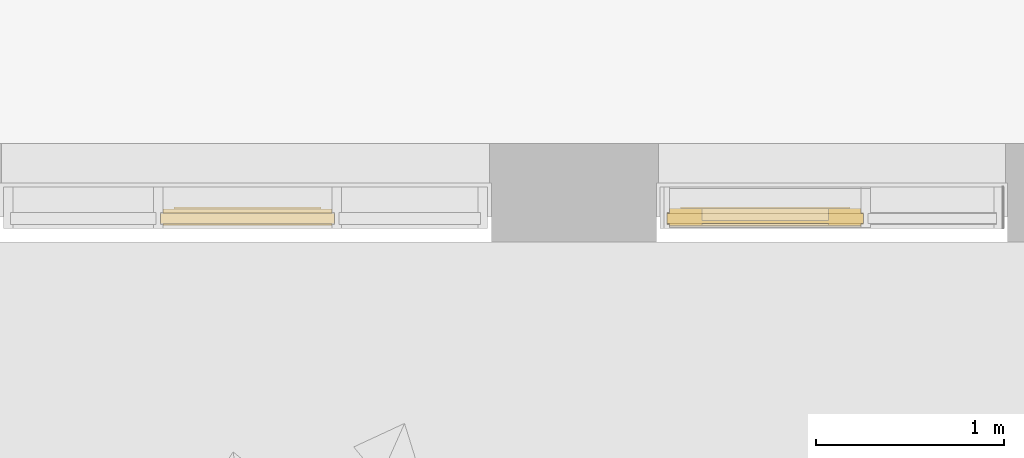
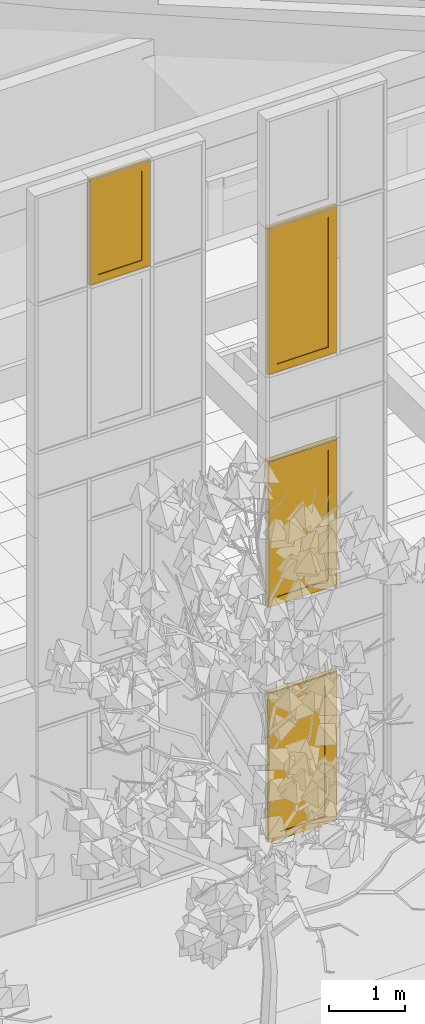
# One storey, part 150 of 246: 3 windows, 1 door, 2 elements without a shape of their own.
"""IFC2X3 building model written with IfcOpenShell, lengths in millimetres."""

from ifc_helpers import new_model, entity, si_unit, converted_unit, derived_unit, money_unit, direction, frame, origin_with_axes, place, context, subcontext, project, spatial, open_shell, faceted_brep, surface_model, source, transform, mapped, material, material_list, type_object, element, aggregate, save


model = new_model("IFC2X3")

# Units and contexts
model_context = context("Model", 3, precision=0.01, world=origin_with_axes(), true_north=direction((0.0, 1.0)))
body_context = subcontext(model_context, "Body", "Model", "MODEL_VIEW")
ifc_project = project(units=[si_unit("LENGTHUNIT", "METRE", prefix="MILLI"), si_unit("AREAUNIT", "SQUARE_METRE"), si_unit("VOLUMEUNIT", "CUBIC_METRE"), converted_unit("PLANEANGLEUNIT", "DEGREE", entity("IfcPlaneAngleMeasure", 0.0174532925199), si_unit("PLANEANGLEUNIT", "RADIAN"), dimensions=[0, 0, 0, 0, 0, 0, 0]), si_unit("SOLIDANGLEUNIT", "STERADIAN"), money_unit("EUR"), converted_unit("TIMEUNIT", "Year", entity("IfcTimeMeasure", 31556926.0), si_unit("TIMEUNIT", "SECOND"), dimensions=[0, 0, 1, 0, 0, 0, 0]), si_unit("MASSUNIT", "GRAM", prefix="KILO"), si_unit("THERMODYNAMICTEMPERATUREUNIT", "DEGREE_CELSIUS"), si_unit("LUMINOUSINTENSITYUNIT", "LUMEN"), si_unit("ENERGYUNIT", "JOULE", prefix="MEGA"), derived_unit("THERMALCONDUCTANCEUNIT", [(si_unit("POWERUNIT", "WATT"), 1), (si_unit("LENGTHUNIT", "METRE"), -1), (si_unit("THERMODYNAMICTEMPERATUREUNIT", "KELVIN"), -1)]), derived_unit("SPECIFICHEATCAPACITYUNIT", [(si_unit("ENERGYUNIT", "JOULE"), 1), (si_unit("MASSUNIT", "GRAM", prefix="KILO"), -1), (si_unit("THERMODYNAMICTEMPERATUREUNIT", "KELVIN"), -1)]), derived_unit("MASSDENSITYUNIT", [(si_unit("MASSUNIT", "GRAM", prefix="KILO"), 1), (si_unit("VOLUMEUNIT", "CUBIC_METRE"), -1)])], contexts=[model_context])

# Site, building, storey
site_placement = place(None, origin_with_axes())
site = spatial("IfcSite", under=ifc_project, at=site_placement, Name="L.Koidula tn 11b", CompositionType="ELEMENT")
building_placement = place(site_placement, origin_with_axes())
building = spatial("IfcBuilding", under=site, at=building_placement, Name="Rakvere Riigigümnaasium", CompositionType="ELEMENT")
storey_placement = place(building_placement, origin_with_axes())
storey = spatial("IfcBuildingStorey", under=building, at=storey_placement, Name="1.korrus 0,00", CompositionType="ELEMENT", Elevation=0.0)

# Curtain wall, door, windows
curtain_wall_type = type_object("IfcCurtainWallType", Name="Curtain Wall Type", PredefinedType="NOTDEFINED")
curtain_wall_1_placement = place(storey_placement, frame((81464.0000846, 5111.45334637, -8.09717250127e-06), z_axis=(0.0, 0.0, 1.0), x_axis=(1.0, 0.0, 0.0)))
curtain_wall_1 = element("IfcCurtainWall", 1, at=curtain_wall_1_placement, inside=storey, type_object=curtain_wall_type, Name="KLF-05-2A")
ifc_material_1 = material(Name="Alumiiniumprofiil (RAL 7021)")
ifc_material_2 = material(Name="Klaaspakett 3x ribikardinatega")
ifc_material_list = material_list([ifc_material_1, ifc_material_2])
door_style = type_object("IfcDoorStyle", Name="1046 x 2388 x 54", ConstructionType="NOTDEFINED", OperationType="NOTDEFINED", ParameterTakesPrecedence=False, Sizeable=False)
shared_shape_1 = source(origin_with_axes(), body_context, "Body", "SurfaceModel", [
    surface_model("IfcShellBasedSurfaceModel", [(1070.0, 0.0, -53.0), (1017.0, 0.0, -53.0), (1017.0, 2322.0, -53.0), (1070.0, 2375.0, -53.0)], [open_shell([[[0, 1, 2, 3]]])]),
    surface_model("IfcShellBasedSurfaceModel", [(50.0, 2375.0, -53.0), (1070.0, 2375.0, -53.0), (1017.0, 2322.0, -53.0), (103.0, 2322.0, -53.0)], [open_shell([[[0, 1, 2, 3]]])]),
    surface_model("IfcShellBasedSurfaceModel", [(50.0, 0.0, -53.0), (50.0, 2375.0, -53.0), (103.0, 2322.0, -53.0), (103.0, 0.0, -53.0)], [open_shell([[[0, 1, 2, 3]]])]),
    faceted_brep([(1070.0, 0.0, -53.0), (1070.0, 2375.0, -53.0), (1070.0, 2375.0, 37.0), (1070.0, 0.0, 37.0), (1017.0, 0.0, -53.0), (1017.0, 2322.0, -53.0), (1017.0, 2322.0, 37.0), (1017.0, 0.0, 37.0)], [[[0, 1, 2, 3]], [[0, 4, 5, 1]], [[1, 5, 6, 2]], [[3, 2, 6, 7]], [[4, 0, 3, 7]], [[5, 4, 7, 6]]]),
    faceted_brep([(50.0, 2375.0, -53.0), (103.0, 2322.0, -53.0), (103.0, 2322.0, 37.0), (50.0, 2375.0, 37.0), (1070.0, 2375.0, -53.0), (1017.0, 2322.0, -53.0), (1017.0, 2322.0, 37.0), (1070.0, 2375.0, 37.0)], [[[0, 1, 2, 3]], [[0, 4, 5, 1]], [[1, 5, 6, 2]], [[3, 2, 6, 7]], [[4, 0, 3, 7]], [[5, 4, 7, 6]]]),
    faceted_brep([(50.0, 0.0, -53.0), (103.0, 0.0, -53.0), (103.0, 0.0, 37.0), (50.0, 0.0, 37.0), (50.0, 2375.0, -53.0), (103.0, 2322.0, -53.0), (103.0, 2322.0, 37.0), (50.0, 2375.0, 37.0)], [[[0, 1, 2, 3]], [[0, 4, 5, 1]], [[1, 5, 6, 2]], [[3, 2, 6, 7]], [[4, 0, 3, 7]], [[5, 4, 7, 6]]]),
    faceted_brep([(1083.0, 0.0, -27.0), (1083.0, 2388.0, -27.0), (1083.0, 2388.0, 27.0), (1083.0, 0.0, 27.0), (1070.0, 0.0, -27.0), (1070.0, 2375.0, -27.0), (1070.0, 2375.0, 27.0), (1070.0, 0.0, 27.0)], [[[0, 1, 2, 3]], [[0, 4, 5, 1]], [[1, 5, 6, 2]], [[3, 2, 6, 7]], [[4, 0, 3, 7]], [[5, 4, 7, 6]]]),
    faceted_brep([(1083.0, 2388.0, -27.0), (37.0, 2388.0, -27.0), (37.0, 2388.0, 27.0), (1083.0, 2388.0, 27.0), (1070.0, 2375.0, -27.0), (50.0, 2375.0, -27.0), (50.0, 2375.0, 27.0), (1070.0, 2375.0, 27.0)], [[[0, 1, 2, 3]], [[0, 4, 5, 1]], [[1, 5, 6, 2]], [[3, 2, 6, 7]], [[4, 0, 3, 7]], [[5, 4, 7, 6]]]),
    faceted_brep([(37.0, 2388.0, -27.0), (37.0, 0.0, -27.0), (37.0, 0.0, 27.0), (37.0, 2388.0, 27.0), (50.0, 2375.0, -27.0), (50.0, 0.0, -27.0), (50.0, 0.0, 27.0), (50.0, 2375.0, 27.0)], [[[0, 1, 2, 3]], [[0, 4, 5, 1]], [[1, 5, 6, 2]], [[3, 2, 6, 7]], [[4, 0, 3, 7]], [[5, 4, 7, 6]]]),
    faceted_brep([(222.0, 119.0, -53.0), (222.0, 2203.0, -53.0), (222.0, 2203.0, 37.0), (222.0, 119.0, 37.0), (103.0, 0.0, -53.0), (103.0, 2322.0, -53.0), (103.0, 2322.0, 37.0), (103.0, 0.0, 37.0)], [[[0, 1, 2, 3]], [[0, 4, 5, 1]], [[1, 5, 6, 2]], [[3, 2, 6, 7]], [[4, 0, 3, 7]], [[5, 4, 7, 6]]]),
    faceted_brep([(1017.0, 0.0, -53.0), (1017.0, 2322.0, -53.0), (1017.0, 2322.0, 37.0), (1017.0, 0.0, 37.0), (898.0, 119.0, -53.0), (898.0, 2203.0, -53.0), (898.0, 2203.0, 37.0), (898.0, 119.0, 37.0)], [[[0, 1, 2, 3]], [[0, 4, 5, 1]], [[1, 5, 6, 2]], [[3, 2, 6, 7]], [[4, 0, 3, 7]], [[5, 4, 7, 6]]]),
    faceted_brep([(1017.0, 0.0, -53.0), (898.0, 119.0, -53.0), (898.0, 119.0, 37.0), (1017.0, 0.0, 37.0), (103.0, 0.0, -53.0), (222.0, 119.0, -53.0), (222.0, 119.0, 37.0), (103.0, 0.0, 37.0)], [[[0, 1, 2, 3]], [[0, 4, 5, 1]], [[1, 5, 6, 2]], [[3, 2, 6, 7]], [[4, 0, 3, 7]], [[5, 4, 7, 6]]]),
    faceted_brep([(103.0, 2322.0, -53.0), (222.0, 2203.0, -53.0), (222.0, 2203.0, 37.0), (103.0, 2322.0, 37.0), (1017.0, 2322.0, -53.0), (898.0, 2203.0, -53.0), (898.0, 2203.0, 37.0), (1017.0, 2322.0, 37.0)], [[[0, 1, 2, 3]], [[0, 4, 5, 1]], [[1, 5, 6, 2]], [[3, 2, 6, 7]], [[4, 0, 3, 7]], [[5, 4, 7, 6]]]),
    faceted_brep([(222.0, 119.0, 11.0), (898.0, 119.0, 11.0), (898.0, 119.0, 27.0), (222.0, 119.0, 27.0), (222.0, 2203.0, 11.0), (898.0, 2203.0, 11.0), (898.0, 2203.0, 27.0), (222.0, 2203.0, 27.0)], [[[0, 1, 2, 3]], [[0, 4, 5, 1]], [[1, 5, 6, 2]], [[3, 2, 6, 7]], [[4, 0, 3, 7]], [[5, 4, 7, 6]]]),
])
door_placement = place(curtain_wall_1_placement, frame((-582.333458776, 0.0, 1200.0), z_axis=(0.0, 0.0, 1.0), x_axis=(-1.0, 0.0, 0.0)))
door = element("IfcDoor", 2, at=door_placement, type_object=door_style, material=ifc_material_list, Name="KLF-05-VU-2", ObjectType="DOOR", context=body_context, shape_type="MappedRepresentation", body=[
    mapped(shared_shape_1, transform((371.666628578, 0.0, -1200.0), x_axis=(-1.0, 0.0, 0.0), y_axis=(0.0, 0.0, 1.0), z_axis=(0.0, 1.0, 0.0))),
])
window_style_1 = type_object("IfcWindowStyle", Name="1046 x 2351 x 65", ConstructionType="NOTDEFINED", OperationType="NOTDEFINED", ParameterTakesPrecedence=False, Sizeable=False)
shared_shape_2 = source(origin_with_axes(), body_context, "Body", "SurfaceModel", [
    surface_model("IfcShellBasedSurfaceModel", [(50.0000055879, 24.9999850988, 43.5), (109.000005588, 83.9999850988, 43.5), (1010.9999851, 83.9999850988, 43.5), (1069.9999851, 24.9999850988, 43.5)], [open_shell([[[0, 1, 2, 3]]])]),
    surface_model("IfcShellBasedSurfaceModel", [(1069.9999851, 24.9999850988, 43.5), (1010.9999851, 83.9999850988, 43.5), (1010.9999851, 2291.0000149, 43.5), (1069.9999851, 2350.0000149, 43.5)], [open_shell([[[0, 1, 2, 3]]])]),
    surface_model("IfcShellBasedSurfaceModel", [(50.0000055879, 2350.0000149, 43.5), (1069.9999851, 2350.0000149, 43.5), (1010.9999851, 2291.0000149, 43.5), (109.000005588, 2291.0000149, 43.5)], [open_shell([[[0, 1, 2, 3]]])]),
    surface_model("IfcShellBasedSurfaceModel", [(50.0000055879, 24.9999850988, 43.5), (50.0000055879, 2350.0000149, 43.5), (109.000005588, 2291.0000149, 43.5), (109.000005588, 83.9999850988, 43.5)], [open_shell([[[0, 1, 2, 3]]])]),
    faceted_brep([(50.0000055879, 24.9999850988, -45.5), (1069.9999851, 24.9999850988, -45.5), (1069.9999851, 24.9999850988, 43.5), (50.0000055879, 24.9999850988, 43.5), (109.000005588, 83.9999850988, -45.5), (1010.9999851, 83.9999850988, -45.5), (1010.9999851, 83.9999850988, 43.5), (109.000005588, 83.9999850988, 43.5)], [[[0, 1, 2, 3]], [[0, 4, 5, 1]], [[1, 5, 6, 2]], [[3, 2, 6, 7]], [[4, 0, 3, 7]], [[5, 4, 7, 6]]]),
    faceted_brep([(1069.9999851, 24.9999850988, -45.5), (1069.9999851, 2350.0000149, -45.5), (1069.9999851, 2350.0000149, 43.5), (1069.9999851, 24.9999850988, 43.5), (1010.9999851, 83.9999850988, -45.5), (1010.9999851, 2291.0000149, -45.5), (1010.9999851, 2291.0000149, 43.5), (1010.9999851, 83.9999850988, 43.5)], [[[0, 1, 2, 3]], [[0, 4, 5, 1]], [[1, 5, 6, 2]], [[3, 2, 6, 7]], [[4, 0, 3, 7]], [[5, 4, 7, 6]]]),
    faceted_brep([(50.0000055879, 2350.0000149, -45.5), (109.000005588, 2291.0000149, -45.5), (109.000005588, 2291.0000149, 43.5), (50.0000055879, 2350.0000149, 43.5), (1069.9999851, 2350.0000149, -45.5), (1010.9999851, 2291.0000149, -45.5), (1010.9999851, 2291.0000149, 43.5), (1069.9999851, 2350.0000149, 43.5)], [[[0, 1, 2, 3]], [[0, 4, 5, 1]], [[1, 5, 6, 2]], [[3, 2, 6, 7]], [[4, 0, 3, 7]], [[5, 4, 7, 6]]]),
    faceted_brep([(50.0000055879, 24.9999850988, -45.5), (109.000005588, 83.9999850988, -45.5), (109.000005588, 83.9999850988, 43.5), (50.0000055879, 24.9999850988, 43.5), (50.0000055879, 2350.0000149, -45.5), (109.000005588, 2291.0000149, -45.5), (109.000005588, 2291.0000149, 43.5), (50.0000055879, 2350.0000149, 43.5)], [[[0, 1, 2, 3]], [[0, 4, 5, 1]], [[1, 5, 6, 2]], [[3, 2, 6, 7]], [[4, 0, 3, 7]], [[5, 4, 7, 6]]]),
    faceted_brep([(36.9999836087, 11.9999985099, -32.5), (1083.00000708, 11.9999985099, -32.5), (1083.00000708, 11.9999985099, 32.5), (36.9999836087, 11.9999985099, 32.5), (50.0000055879, 24.9999850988, -32.5), (1069.9999851, 24.9999850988, -32.5), (1069.9999851, 24.9999850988, 32.5), (50.0000055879, 24.9999850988, 32.5)], [[[0, 1, 2, 3]], [[0, 4, 5, 1]], [[1, 5, 6, 2]], [[3, 2, 6, 7]], [[4, 0, 3, 7]], [[5, 4, 7, 6]]]),
    faceted_brep([(1083.00000708, 11.9999985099, -32.5), (1083.00000708, 2363.00000149, -32.5), (1083.00000708, 2363.00000149, 32.5), (1083.00000708, 11.9999985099, 32.5), (1069.9999851, 24.9999850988, -32.5), (1069.9999851, 2350.0000149, -32.5), (1069.9999851, 2350.0000149, 32.5), (1069.9999851, 24.9999850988, 32.5)], [[[0, 1, 2, 3]], [[0, 4, 5, 1]], [[1, 5, 6, 2]], [[3, 2, 6, 7]], [[4, 0, 3, 7]], [[5, 4, 7, 6]]]),
    faceted_brep([(1083.00000708, 2363.00000149, -32.5), (36.9999836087, 2363.00000149, -32.5), (36.9999836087, 2363.00000149, 32.5), (1083.00000708, 2363.00000149, 32.5), (1069.9999851, 2350.0000149, -32.5), (50.0000055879, 2350.0000149, -32.5), (50.0000055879, 2350.0000149, 32.5), (1069.9999851, 2350.0000149, 32.5)], [[[0, 1, 2, 3]], [[0, 4, 5, 1]], [[1, 5, 6, 2]], [[3, 2, 6, 7]], [[4, 0, 3, 7]], [[5, 4, 7, 6]]]),
    faceted_brep([(36.9999836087, 2363.00000149, -32.5), (36.9999836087, 11.9999985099, -32.5), (36.9999836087, 11.9999985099, 32.5), (36.9999836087, 2363.00000149, 32.5), (50.0000055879, 2350.0000149, -32.5), (50.0000055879, 24.9999850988, -32.5), (50.0000055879, 24.9999850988, 32.5), (50.0000055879, 2350.0000149, 32.5)], [[[0, 1, 2, 3]], [[0, 4, 5, 1]], [[1, 5, 6, 2]], [[3, 2, 6, 7]], [[4, 0, 3, 7]], [[5, 4, 7, 6]]]),
    faceted_brep([(172.000005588, 146.999985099, 43.5), (172.000005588, 146.999985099, -56.5), (172.000005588, 2228.0000149, -56.5), (172.000005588, 2228.0000149, 43.5), (109.000005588, 83.9999850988, 43.5), (109.000005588, 83.9999850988, -56.5), (109.000005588, 2291.0000149, -56.5), (109.000005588, 2291.0000149, 43.5)], [[[0, 1, 2, 3]], [[4, 5, 1, 0]], [[1, 5, 6, 2]], [[3, 2, 6, 7]], [[0, 3, 7, 4]], [[7, 6, 5, 4]]]),
    faceted_brep([(1010.9999851, 83.9999850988, 43.5), (1010.9999851, 83.9999850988, -56.5), (1010.9999851, 2291.0000149, -56.5), (1010.9999851, 2291.0000149, 43.5), (947.999985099, 146.999985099, 43.5), (947.999985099, 146.999985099, -56.5), (947.999985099, 2228.0000149, -56.5), (947.999985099, 2228.0000149, 43.5)], [[[0, 1, 2, 3]], [[4, 5, 1, 0]], [[1, 5, 6, 2]], [[3, 2, 6, 7]], [[0, 3, 7, 4]], [[7, 6, 5, 4]]]),
    faceted_brep([(1010.9999851, 83.9999850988, 43.5), (1010.9999851, 83.9999850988, -56.5), (947.999985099, 146.999985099, -56.5), (947.999985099, 146.999985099, 43.5), (109.000005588, 83.9999850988, 43.5), (109.000005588, 83.9999850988, -56.5), (172.000005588, 146.999985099, -56.5), (172.000005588, 146.999985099, 43.5)], [[[0, 1, 2, 3]], [[4, 5, 1, 0]], [[1, 5, 6, 2]], [[3, 2, 6, 7]], [[0, 3, 7, 4]], [[7, 6, 5, 4]]]),
    faceted_brep([(109.000005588, 2291.0000149, 43.5), (109.000005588, 2291.0000149, -56.5), (172.000005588, 2228.0000149, -56.5), (172.000005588, 2228.0000149, 43.5), (1010.9999851, 2291.0000149, 43.5), (1010.9999851, 2291.0000149, -56.5), (947.999985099, 2228.0000149, -56.5), (947.999985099, 2228.0000149, 43.5)], [[[0, 1, 2, 3]], [[4, 5, 1, 0]], [[1, 5, 6, 2]], [[3, 2, 6, 7]], [[0, 3, 7, 4]], [[7, 6, 5, 4]]]),
    faceted_brep([(172.000005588, 146.999985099, 32.5), (172.000005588, 146.999985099, -32.5), (947.999985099, 146.999985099, -32.5), (947.999985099, 146.999985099, 32.5), (172.000005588, 2228.0000149, 32.5), (172.000005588, 2228.0000149, -32.5), (947.999985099, 2228.0000149, -32.5), (947.999985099, 2228.0000149, 32.5)], [[[0, 1, 2, 3]], [[4, 5, 1, 0]], [[1, 5, 6, 2]], [[3, 2, 6, 7]], [[0, 3, 7, 4]], [[7, 6, 5, 4]]]),
])
window_1_placement = place(curtain_wall_1_placement, frame((-582.333458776, 0.0, 4932.5), z_axis=(0.0, 0.0, 1.0), x_axis=(-1.0, 0.0, 0.0)))
window_1 = element("IfcWindow", 3, at=window_1_placement, type_object=window_style_1, material=ifc_material_list, Name="KLF-05-A-1", ObjectType="WINDOW", context=body_context, shape_type="MappedRepresentation", body=[
    mapped(shared_shape_2, transform((371.666628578, 0.0, -1187.5), x_axis=(-1.0, 0.0, 0.0), y_axis=(0.0, 0.0, 1.0), z_axis=(0.0, 1.0, 0.0))),
])
window_style_2 = type_object("IfcWindowStyle", Name="1046 x 2351 x 54", ConstructionType="NOTDEFINED", OperationType="NOTDEFINED", ParameterTakesPrecedence=False, Sizeable=False)
shared_shape_3 = source(origin_with_axes(), body_context, "Body", "SurfaceModel", [
    surface_model("IfcShellBasedSurfaceModel", [(50.0000055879, 24.9999850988, 38.0), (109.000005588, 83.9999850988, 38.0), (1010.9999851, 83.9999850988, 38.0), (1069.9999851, 24.9999850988, 38.0)], [open_shell([[[0, 1, 2, 3]]])]),
    surface_model("IfcShellBasedSurfaceModel", [(1069.9999851, 24.9999850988, 38.0), (1010.9999851, 83.9999850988, 38.0), (1010.9999851, 2291.0000149, 38.0), (1069.9999851, 2350.0000149, 38.0)], [open_shell([[[0, 1, 2, 3]]])]),
    surface_model("IfcShellBasedSurfaceModel", [(50.0000055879, 2350.0000149, 38.0), (1069.9999851, 2350.0000149, 38.0), (1010.9999851, 2291.0000149, 38.0), (109.000005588, 2291.0000149, 38.0)], [open_shell([[[0, 1, 2, 3]]])]),
    surface_model("IfcShellBasedSurfaceModel", [(50.0000055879, 24.9999850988, 38.0), (50.0000055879, 2350.0000149, 38.0), (109.000005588, 2291.0000149, 38.0), (109.000005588, 83.9999850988, 38.0)], [open_shell([[[0, 1, 2, 3]]])]),
    faceted_brep([(50.0000055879, 24.9999850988, -51.0), (1069.9999851, 24.9999850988, -51.0), (1069.9999851, 24.9999850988, 38.0), (50.0000055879, 24.9999850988, 38.0), (109.000005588, 83.9999850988, -51.0), (1010.9999851, 83.9999850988, -51.0), (1010.9999851, 83.9999850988, 38.0), (109.000005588, 83.9999850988, 38.0)], [[[0, 1, 2, 3]], [[0, 4, 5, 1]], [[1, 5, 6, 2]], [[3, 2, 6, 7]], [[4, 0, 3, 7]], [[5, 4, 7, 6]]]),
    faceted_brep([(1069.9999851, 24.9999850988, -51.0), (1069.9999851, 2350.0000149, -51.0), (1069.9999851, 2350.0000149, 38.0), (1069.9999851, 24.9999850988, 38.0), (1010.9999851, 83.9999850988, -51.0), (1010.9999851, 2291.0000149, -51.0), (1010.9999851, 2291.0000149, 38.0), (1010.9999851, 83.9999850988, 38.0)], [[[0, 1, 2, 3]], [[0, 4, 5, 1]], [[1, 5, 6, 2]], [[3, 2, 6, 7]], [[4, 0, 3, 7]], [[5, 4, 7, 6]]]),
    faceted_brep([(50.0000055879, 2350.0000149, -51.0), (109.000005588, 2291.0000149, -51.0), (109.000005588, 2291.0000149, 38.0), (50.0000055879, 2350.0000149, 38.0), (1069.9999851, 2350.0000149, -51.0), (1010.9999851, 2291.0000149, -51.0), (1010.9999851, 2291.0000149, 38.0), (1069.9999851, 2350.0000149, 38.0)], [[[0, 1, 2, 3]], [[0, 4, 5, 1]], [[1, 5, 6, 2]], [[3, 2, 6, 7]], [[4, 0, 3, 7]], [[5, 4, 7, 6]]]),
    faceted_brep([(50.0000055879, 24.9999850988, -51.0), (109.000005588, 83.9999850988, -51.0), (109.000005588, 83.9999850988, 38.0), (50.0000055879, 24.9999850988, 38.0), (50.0000055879, 2350.0000149, -51.0), (109.000005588, 2291.0000149, -51.0), (109.000005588, 2291.0000149, 38.0), (50.0000055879, 2350.0000149, 38.0)], [[[0, 1, 2, 3]], [[0, 4, 5, 1]], [[1, 5, 6, 2]], [[3, 2, 6, 7]], [[4, 0, 3, 7]], [[5, 4, 7, 6]]]),
    faceted_brep([(36.9999836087, 11.9999985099, -27.0), (1083.00000708, 11.9999985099, -27.0), (1083.00000708, 11.9999985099, 27.0), (36.9999836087, 11.9999985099, 27.0), (50.0000055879, 24.9999850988, -27.0), (1069.9999851, 24.9999850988, -27.0), (1069.9999851, 24.9999850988, 27.0), (50.0000055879, 24.9999850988, 27.0)], [[[0, 1, 2, 3]], [[0, 4, 5, 1]], [[1, 5, 6, 2]], [[3, 2, 6, 7]], [[4, 0, 3, 7]], [[5, 4, 7, 6]]]),
    faceted_brep([(1083.00000708, 11.9999985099, -27.0), (1083.00000708, 2363.00000149, -27.0), (1083.00000708, 2363.00000149, 27.0), (1083.00000708, 11.9999985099, 27.0), (1069.9999851, 24.9999850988, -27.0), (1069.9999851, 2350.0000149, -27.0), (1069.9999851, 2350.0000149, 27.0), (1069.9999851, 24.9999850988, 27.0)], [[[0, 1, 2, 3]], [[0, 4, 5, 1]], [[1, 5, 6, 2]], [[3, 2, 6, 7]], [[4, 0, 3, 7]], [[5, 4, 7, 6]]]),
    faceted_brep([(1083.00000708, 2363.00000149, -27.0), (36.9999836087, 2363.00000149, -27.0), (36.9999836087, 2363.00000149, 27.0), (1083.00000708, 2363.00000149, 27.0), (1069.9999851, 2350.0000149, -27.0), (50.0000055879, 2350.0000149, -27.0), (50.0000055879, 2350.0000149, 27.0), (1069.9999851, 2350.0000149, 27.0)], [[[0, 1, 2, 3]], [[0, 4, 5, 1]], [[1, 5, 6, 2]], [[3, 2, 6, 7]], [[4, 0, 3, 7]], [[5, 4, 7, 6]]]),
    faceted_brep([(36.9999836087, 2363.00000149, -27.0), (36.9999836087, 11.9999985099, -27.0), (36.9999836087, 11.9999985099, 27.0), (36.9999836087, 2363.00000149, 27.0), (50.0000055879, 2350.0000149, -27.0), (50.0000055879, 24.9999850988, -27.0), (50.0000055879, 24.9999850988, 27.0), (50.0000055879, 2350.0000149, 27.0)], [[[0, 1, 2, 3]], [[0, 4, 5, 1]], [[1, 5, 6, 2]], [[3, 2, 6, 7]], [[4, 0, 3, 7]], [[5, 4, 7, 6]]]),
    faceted_brep([(172.000005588, 146.999985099, 38.0), (172.000005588, 146.999985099, -62.0), (172.000005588, 2228.0000149, -62.0), (172.000005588, 2228.0000149, 38.0), (109.000005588, 83.9999850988, 38.0), (109.000005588, 83.9999850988, -62.0), (109.000005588, 2291.0000149, -62.0), (109.000005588, 2291.0000149, 38.0)], [[[0, 1, 2, 3]], [[4, 5, 1, 0]], [[1, 5, 6, 2]], [[3, 2, 6, 7]], [[0, 3, 7, 4]], [[7, 6, 5, 4]]]),
    faceted_brep([(1010.9999851, 83.9999850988, 38.0), (1010.9999851, 83.9999850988, -62.0), (1010.9999851, 2291.0000149, -62.0), (1010.9999851, 2291.0000149, 38.0), (947.999985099, 146.999985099, 38.0), (947.999985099, 146.999985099, -62.0), (947.999985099, 2228.0000149, -62.0), (947.999985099, 2228.0000149, 38.0)], [[[0, 1, 2, 3]], [[4, 5, 1, 0]], [[1, 5, 6, 2]], [[3, 2, 6, 7]], [[0, 3, 7, 4]], [[7, 6, 5, 4]]]),
    faceted_brep([(1010.9999851, 83.9999850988, 38.0), (1010.9999851, 83.9999850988, -62.0), (947.999985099, 146.999985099, -62.0), (947.999985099, 146.999985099, 38.0), (109.000005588, 83.9999850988, 38.0), (109.000005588, 83.9999850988, -62.0), (172.000005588, 146.999985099, -62.0), (172.000005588, 146.999985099, 38.0)], [[[0, 1, 2, 3]], [[4, 5, 1, 0]], [[1, 5, 6, 2]], [[3, 2, 6, 7]], [[0, 3, 7, 4]], [[7, 6, 5, 4]]]),
    faceted_brep([(109.000005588, 2291.0000149, 38.0), (109.000005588, 2291.0000149, -62.0), (172.000005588, 2228.0000149, -62.0), (172.000005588, 2228.0000149, 38.0), (1010.9999851, 2291.0000149, 38.0), (1010.9999851, 2291.0000149, -62.0), (947.999985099, 2228.0000149, -62.0), (947.999985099, 2228.0000149, 38.0)], [[[0, 1, 2, 3]], [[4, 5, 1, 0]], [[1, 5, 6, 2]], [[3, 2, 6, 7]], [[0, 3, 7, 4]], [[7, 6, 5, 4]]]),
    faceted_brep([(172.000005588, 146.999985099, 27.0), (172.000005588, 146.999985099, 11.0), (947.999985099, 146.999985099, 11.0), (947.999985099, 146.999985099, 27.0), (172.000005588, 2228.0000149, 27.0), (172.000005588, 2228.0000149, 11.0), (947.999985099, 2228.0000149, 11.0), (947.999985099, 2228.0000149, 27.0)], [[[0, 1, 2, 3]], [[4, 5, 1, 0]], [[1, 5, 6, 2]], [[3, 2, 6, 7]], [[0, 3, 7, 4]], [[7, 6, 5, 4]]]),
])
window_2_placement = place(curtain_wall_1_placement, frame((-403.166773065, 0.0, 8512.5), z_axis=(0.0, 0.0, 1.0), x_axis=(-1.0, 0.0, 0.0)))
window_2 = element("IfcWindow", 4, at=window_2_placement, type_object=window_style_2, material=ifc_material_list, Name="KLF-05-A-1", ObjectType="WINDOW", context=body_context, shape_type="MappedRepresentation", body=[
    mapped(shared_shape_3, transform((550.833314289, 0.0, -1047.5), x_axis=(-1.0, 0.0, 0.0), y_axis=(0.0, 0.0, 1.0), z_axis=(0.0, 1.0, 0.0))),
])
aggregate(curtain_wall_1, [door, window_1, window_2])

# Curtain wall, window
curtain_wall_2_placement = place(storey_placement, frame((78309.9973345, 5111.43278481, -1.61944633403e-05), z_axis=(0.0, 0.0, 1.0), x_axis=(1.0, 0.0, 0.0)))
curtain_wall_2 = element("IfcCurtainWall", 5, at=curtain_wall_2_placement, inside=storey, type_object=curtain_wall_type, Name="KLF-05-3A")
window_style_3 = type_object("IfcWindowStyle", Name="926 x 1701 x 54", ConstructionType="NOTDEFINED", OperationType="NOTDEFINED", ParameterTakesPrecedence=False, Sizeable=False)
shared_shape_4 = source(origin_with_axes(), body_context, "Body", "SurfaceModel", [
    surface_model("IfcShellBasedSurfaceModel", [(24.9999968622, 24.9999968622, 38.0), (83.9999968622, 83.9999968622, 38.0), (865.999988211, 83.9999968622, 38.0), (924.999988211, 24.9999968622, 38.0)], [open_shell([[[0, 1, 2, 3]]])]),
    surface_model("IfcShellBasedSurfaceModel", [(924.999988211, 24.9999968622, 38.0), (865.999988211, 83.9999968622, 38.0), (865.999988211, 1641.0000474, 38.0), (924.999988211, 1700.0000474, 38.0)], [open_shell([[[0, 1, 2, 3]]])]),
    surface_model("IfcShellBasedSurfaceModel", [(24.9999968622, 1700.0000474, 38.0), (924.999988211, 1700.0000474, 38.0), (865.999988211, 1641.0000474, 38.0), (83.9999968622, 1641.0000474, 38.0)], [open_shell([[[0, 1, 2, 3]]])]),
    surface_model("IfcShellBasedSurfaceModel", [(24.9999968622, 24.9999968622, 38.0), (24.9999968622, 1700.0000474, 38.0), (83.9999968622, 1641.0000474, 38.0), (83.9999968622, 83.9999968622, 38.0)], [open_shell([[[0, 1, 2, 3]]])]),
    faceted_brep([(24.9999968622, 24.9999968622, -51.0), (924.999988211, 24.9999968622, -51.0), (924.999988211, 24.9999968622, 38.0), (24.9999968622, 24.9999968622, 38.0), (83.9999968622, 83.9999968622, -51.0), (865.999988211, 83.9999968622, -51.0), (865.999988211, 83.9999968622, 38.0), (83.9999968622, 83.9999968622, 38.0)], [[[0, 1, 2, 3]], [[0, 4, 5, 1]], [[1, 5, 6, 2]], [[3, 2, 6, 7]], [[4, 0, 3, 7]], [[5, 4, 7, 6]]]),
    faceted_brep([(924.999988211, 24.9999968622, -51.0), (924.999988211, 1700.0000474, -51.0), (924.999988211, 1700.0000474, 38.0), (924.999988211, 24.9999968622, 38.0), (865.999988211, 83.9999968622, -51.0), (865.999988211, 1641.0000474, -51.0), (865.999988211, 1641.0000474, 38.0), (865.999988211, 83.9999968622, 38.0)], [[[0, 1, 2, 3]], [[0, 4, 5, 1]], [[1, 5, 6, 2]], [[3, 2, 6, 7]], [[4, 0, 3, 7]], [[5, 4, 7, 6]]]),
    faceted_brep([(24.9999968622, 1700.0000474, -51.0), (83.9999968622, 1641.0000474, -51.0), (83.9999968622, 1641.0000474, 38.0), (24.9999968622, 1700.0000474, 38.0), (924.999988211, 1700.0000474, -51.0), (865.999988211, 1641.0000474, -51.0), (865.999988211, 1641.0000474, 38.0), (924.999988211, 1700.0000474, 38.0)], [[[0, 1, 2, 3]], [[0, 4, 5, 1]], [[1, 5, 6, 2]], [[3, 2, 6, 7]], [[4, 0, 3, 7]], [[5, 4, 7, 6]]]),
    faceted_brep([(24.9999968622, 24.9999968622, -51.0), (83.9999968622, 83.9999968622, -51.0), (83.9999968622, 83.9999968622, 38.0), (24.9999968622, 24.9999968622, 38.0), (24.9999968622, 1700.0000474, -51.0), (83.9999968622, 1641.0000474, -51.0), (83.9999968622, 1641.0000474, 38.0), (24.9999968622, 1700.0000474, 38.0)], [[[0, 1, 2, 3]], [[0, 4, 5, 1]], [[1, 5, 6, 2]], [[3, 2, 6, 7]], [[4, 0, 3, 7]], [[5, 4, 7, 6]]]),
    faceted_brep([(12.0000099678, 12.0000099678, -27.0), (938.000001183, 12.0000099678, -27.0), (938.000001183, 12.0000099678, 27.0), (12.0000099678, 12.0000099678, 27.0), (24.9999968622, 24.9999968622, -27.0), (924.999988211, 24.9999968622, -27.0), (924.999988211, 24.9999968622, 27.0), (24.9999968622, 24.9999968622, 27.0)], [[[0, 1, 2, 3]], [[0, 4, 5, 1]], [[1, 5, 6, 2]], [[3, 2, 6, 7]], [[4, 0, 3, 7]], [[5, 4, 7, 6]]]),
    faceted_brep([(938.000001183, 12.0000099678, -27.0), (938.000001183, 1713.0000343, -27.0), (938.000001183, 1713.0000343, 27.0), (938.000001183, 12.0000099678, 27.0), (924.999988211, 24.9999968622, -27.0), (924.999988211, 1700.0000474, -27.0), (924.999988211, 1700.0000474, 27.0), (924.999988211, 24.9999968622, 27.0)], [[[0, 1, 2, 3]], [[0, 4, 5, 1]], [[1, 5, 6, 2]], [[3, 2, 6, 7]], [[4, 0, 3, 7]], [[5, 4, 7, 6]]]),
    faceted_brep([(938.000001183, 1713.0000343, -27.0), (12.0000099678, 1713.0000343, -27.0), (12.0000099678, 1713.0000343, 27.0), (938.000001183, 1713.0000343, 27.0), (924.999988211, 1700.0000474, -27.0), (24.9999968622, 1700.0000474, -27.0), (24.9999968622, 1700.0000474, 27.0), (924.999988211, 1700.0000474, 27.0)], [[[0, 1, 2, 3]], [[0, 4, 5, 1]], [[1, 5, 6, 2]], [[3, 2, 6, 7]], [[4, 0, 3, 7]], [[5, 4, 7, 6]]]),
    faceted_brep([(12.0000099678, 1713.0000343, -27.0), (12.0000099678, 12.0000099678, -27.0), (12.0000099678, 12.0000099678, 27.0), (12.0000099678, 1713.0000343, 27.0), (24.9999968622, 1700.0000474, -27.0), (24.9999968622, 24.9999968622, -27.0), (24.9999968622, 24.9999968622, 27.0), (24.9999968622, 1700.0000474, 27.0)], [[[0, 1, 2, 3]], [[0, 4, 5, 1]], [[1, 5, 6, 2]], [[3, 2, 6, 7]], [[4, 0, 3, 7]], [[5, 4, 7, 6]]]),
    faceted_brep([(146.999996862, 146.999996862, 38.0), (146.999996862, 146.999996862, -62.0), (146.999996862, 1578.0000474, -62.0), (146.999996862, 1578.0000474, 38.0), (83.9999968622, 83.9999968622, 38.0), (83.9999968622, 83.9999968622, -62.0), (83.9999968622, 1641.0000474, -62.0), (83.9999968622, 1641.0000474, 38.0)], [[[0, 1, 2, 3]], [[4, 5, 1, 0]], [[1, 5, 6, 2]], [[3, 2, 6, 7]], [[0, 3, 7, 4]], [[7, 6, 5, 4]]]),
    faceted_brep([(865.999988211, 83.9999968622, 38.0), (865.999988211, 83.9999968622, -62.0), (865.999988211, 1641.0000474, -62.0), (865.999988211, 1641.0000474, 38.0), (802.999988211, 146.999996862, 38.0), (802.999988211, 146.999996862, -62.0), (802.999988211, 1578.0000474, -62.0), (802.999988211, 1578.0000474, 38.0)], [[[0, 1, 2, 3]], [[4, 5, 1, 0]], [[1, 5, 6, 2]], [[3, 2, 6, 7]], [[0, 3, 7, 4]], [[7, 6, 5, 4]]]),
    faceted_brep([(865.999988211, 83.9999968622, 38.0), (865.999988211, 83.9999968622, -62.0), (802.999988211, 146.999996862, -62.0), (802.999988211, 146.999996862, 38.0), (83.9999968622, 83.9999968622, 38.0), (83.9999968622, 83.9999968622, -62.0), (146.999996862, 146.999996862, -62.0), (146.999996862, 146.999996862, 38.0)], [[[0, 1, 2, 3]], [[4, 5, 1, 0]], [[1, 5, 6, 2]], [[3, 2, 6, 7]], [[0, 3, 7, 4]], [[7, 6, 5, 4]]]),
    faceted_brep([(83.9999968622, 1641.0000474, 38.0), (83.9999968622, 1641.0000474, -62.0), (146.999996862, 1578.0000474, -62.0), (146.999996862, 1578.0000474, 38.0), (865.999988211, 1641.0000474, 38.0), (865.999988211, 1641.0000474, -62.0), (802.999988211, 1578.0000474, -62.0), (802.999988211, 1578.0000474, 38.0)], [[[0, 1, 2, 3]], [[4, 5, 1, 0]], [[1, 5, 6, 2]], [[3, 2, 6, 7]], [[0, 3, 7, 4]], [[7, 6, 5, 4]]]),
    faceted_brep([(146.999996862, 146.999996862, 27.0), (146.999996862, 146.999996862, -38.0), (802.999988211, 146.999996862, -38.0), (802.999988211, 146.999996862, 27.0), (146.999996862, 1578.0000474, 27.0), (146.999996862, 1578.0000474, -38.0), (802.999988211, 1578.0000474, -38.0), (802.999988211, 1578.0000474, 27.0)], [[[0, 1, 2, 3]], [[4, 5, 1, 0]], [[1, 5, 6, 2]], [[3, 2, 6, 7]], [[0, 3, 7, 4]], [[7, 6, 5, 4]]]),
])
window_3_placement = place(curtain_wall_2_placement, frame((0.0, 0.0, 10715.0000206), z_axis=(0.0, 0.0, 1.0), x_axis=(-0.999999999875, 1.58166009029e-05, 0.0)))
window_3 = element("IfcWindow", 6, at=window_3_placement, type_object=window_style_3, material=ifc_material_list, Name="KLF-05-A-4", ObjectType="WINDOW", context=body_context, shape_type="MappedRepresentation", body=[
    mapped(shared_shape_4, transform((475.0, 0.0, -875.000020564), x_axis=(-1.0, 0.0, 0.0), y_axis=(0.0, 0.0, 1.0), z_axis=(0.0, 1.0, 0.0))),
])
aggregate(curtain_wall_2, [window_3])

save(model, "model.ifc")
